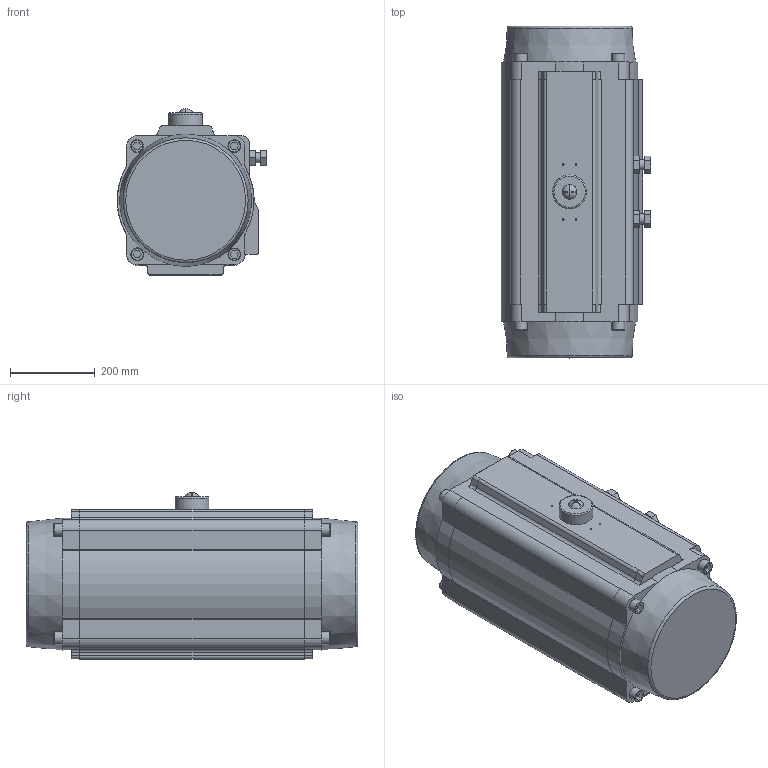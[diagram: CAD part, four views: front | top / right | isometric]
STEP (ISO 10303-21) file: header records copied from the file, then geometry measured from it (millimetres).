
FILE_DESCRIPTION(('Open CASCADE Model'),'2;1');
FILE_NAME('Open CASCADE Shape Model','2023-01-26T10:25:21',('Author'),( 'Open CASCADE'),'Open CASCADE STEP processor 7.3','Open CASCADE 7.3' ,'Unknown');
FILE_SCHEMA(('AUTOMOTIVE_DESIGN { 1 0 10303 214 1 1 1 1 }'));
Length unit declared in the file: millimetre
Products named in the file (1): Open CASCADE STEP translator 7.3 1
Bounding box: 354 x 784 x 393.98 mm (x, y, z)
Volume: 73748694.7 mm3; surface area: 1179329.7 mm2
Topology: 1 solids, 9 shells, 315 faces, 752 edges, 495 vertices
Faces by surface type: plane 206, cylinder 95, torus 11, cone 2, sphere 1
Full cylindrical faces by diameter (mm): 3.5 x4, 4 x4, 17 x2, 18 x4, 22 x8, 24 x2, 30 x8, 80 x1, 125 x1
Entity records: 19502 total; most frequent: CARTESIAN_POINT 4159, DIRECTION 2932, LINE 1767, VECTOR 1767, ORIENTED_EDGE 1504, PCURVE 1504, DEFINITIONAL_REPRESENTATION 1504, EDGE_CURVE 752
